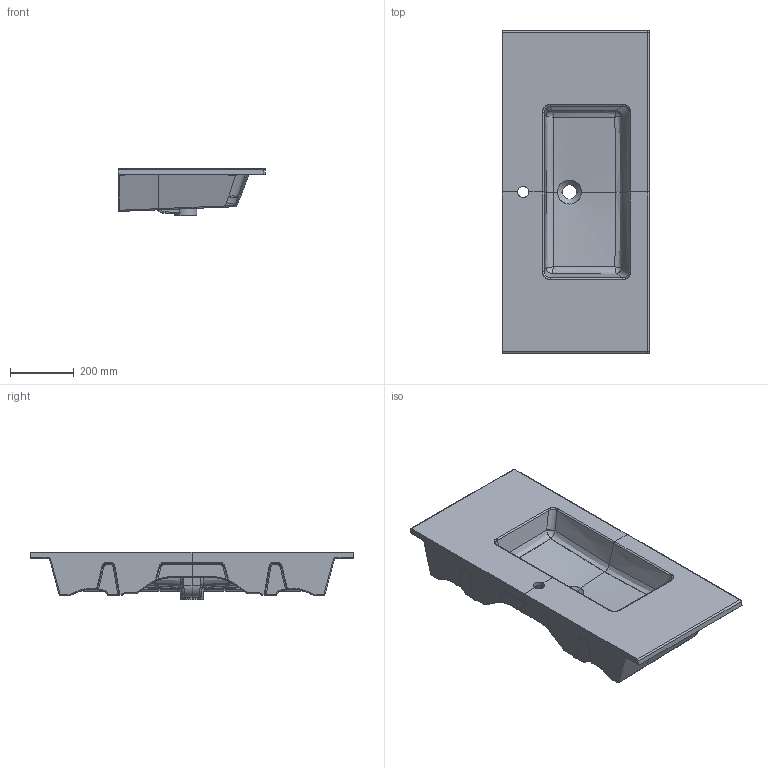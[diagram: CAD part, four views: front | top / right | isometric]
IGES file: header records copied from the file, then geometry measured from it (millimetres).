
Start section: START RECORD GO HERE.
Global section: file name: LAVABO101x46.igs; native system: DASSAULT SYSTEMES CATIA V5 R19 - www.3ds.com; preprocessor: CATIA Version 5 Release 19 SP 5 ; author: Luca; organization: DESKTOP-V7SON24; date: 20200124.162653; units: millimetre
Bounding box: 460.7 x 1013.5 x 150.1 mm (x, y, z)
Surface area: 1529261.7 mm2 (no closed solid volume)
Topology: 0 solids, 0 shells, 638 faces, 2969 edges, 2934 vertices
Faces by surface type: bspline 424, revolution 166, plane 42, extrusion 6
